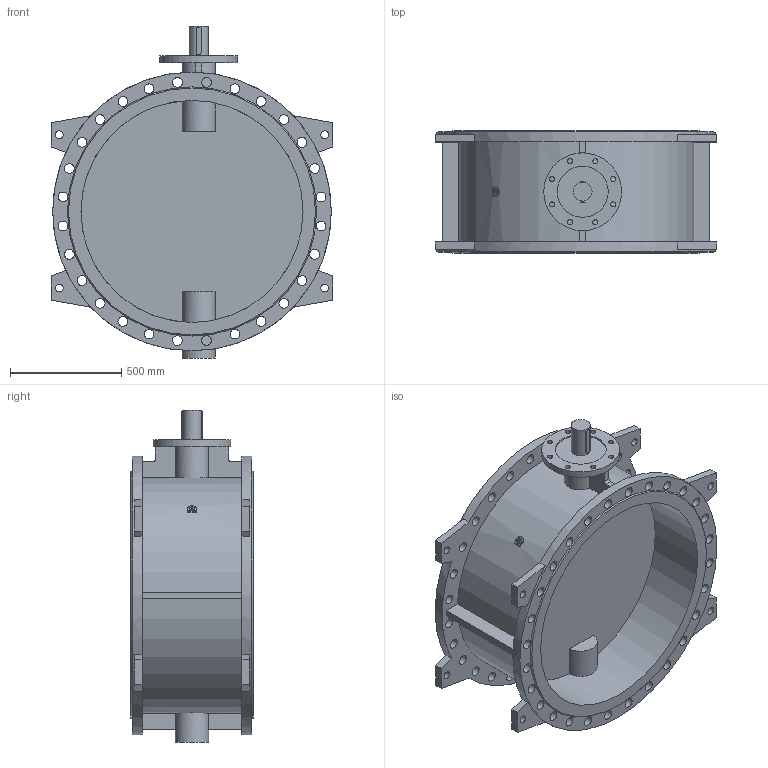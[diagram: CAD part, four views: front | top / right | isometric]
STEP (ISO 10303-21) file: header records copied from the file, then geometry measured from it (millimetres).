
FILE_DESCRIPTION(('STEP AP203'), '1');
FILE_NAME('Çàòâîð 023F.Z DN1000 PN16_èñï', '', ('UNSPECIFIED'), ('UNSPECIFIED'), 'ASCON STEP Converter 1.6', 'ASCON Math Kernel', '');
FILE_SCHEMA(('CONFIG_CONTROL_DESIGN'));
Length unit declared in the file: millimetre
Bounding box: 1266 x 550 x 1495 mm (x, y, z)
Volume: 163403214.5 mm3; surface area: 7616236.8 mm2
Topology: 1 solids, 1 shells, 190 faces, 529 edges, 350 vertices
Faces by surface type: cylinder 99, plane 89, cone 2
Full cylindrical faces by diameter (mm): 23 x8, 35 x8, 44 x56, 85 x1, 150 x1, 230 x1, 350 x1, 1000 x2, 1255 x2
Entity records: 8714 total; most frequent: CARTESIAN_POINT 2138, DIRECTION 1030, ORIENTED_EDGE 892, EDGE_CURVE 446, EDGE_LOOP 426, AXIS2_PLACEMENT_3D 412, VERTEX_POINT 350, FACE_BOUND 270
